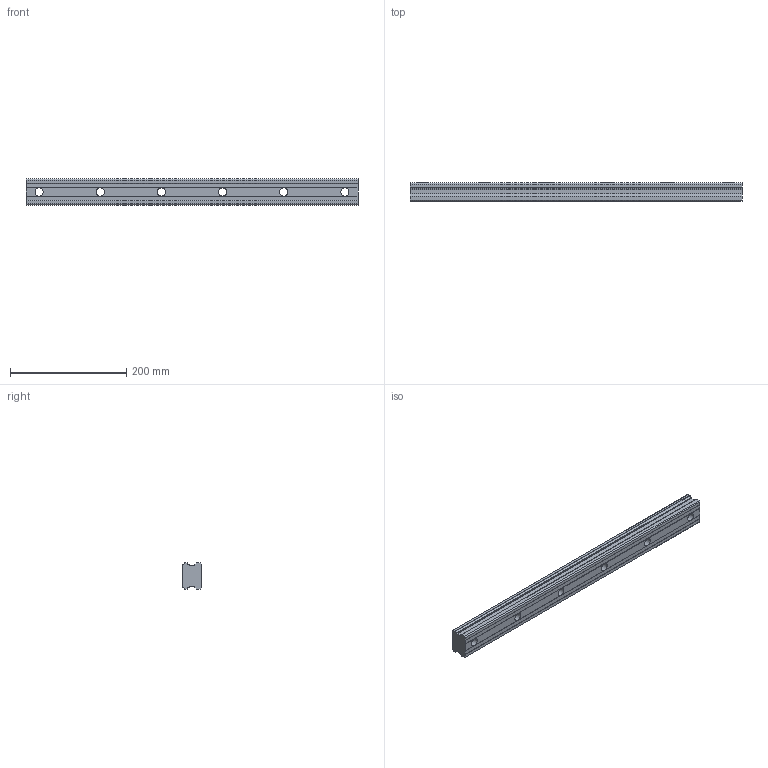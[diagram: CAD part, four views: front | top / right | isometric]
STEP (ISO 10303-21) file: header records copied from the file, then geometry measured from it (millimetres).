
FILE_DESCRIPTION(/* description */ ('STEP AP203'),/* implementation_level */ '2;1');
FILE_NAME(/* name */ 'SHS45-570L(GK) RAIL(22.5)',/* time_stamp */ '2024-05-14T03:42:35+02:00',/* author */ ('License CC BY-ND 4.0'),/* organization */ ('CADENAS'),/* preprocessor_version */ 'ST-DEVELOPER v19.3',/* originating_system */ 'PARTsolutions',/* authorisation */ ' ');
FILE_SCHEMA (('CONFIG_CONTROL_DESIGN'));
Length unit declared in the file: millimetre
Products named in the file (1): SHS45-570L(GK) RAIL(22.5)
Bounding box: 570 x 32 x 45 mm (x, y, z)
Volume: 707478.7 mm3; surface area: 99864.9 mm2
Topology: 1 solids, 1 shells, 66 faces, 174 edges, 110 vertices
Faces by surface type: plane 36, cylinder 30
Full cylindrical faces by diameter (mm): 14 x6, 20 x6
Entity records: 2034 total; most frequent: DIRECTION 362, CARTESIAN_POINT 339, ORIENTED_EDGE 324, EDGE_CURVE 162, AXIS2_PLACEMENT_3D 133, VERTEX_POINT 110, LINE 96, VECTOR 96
